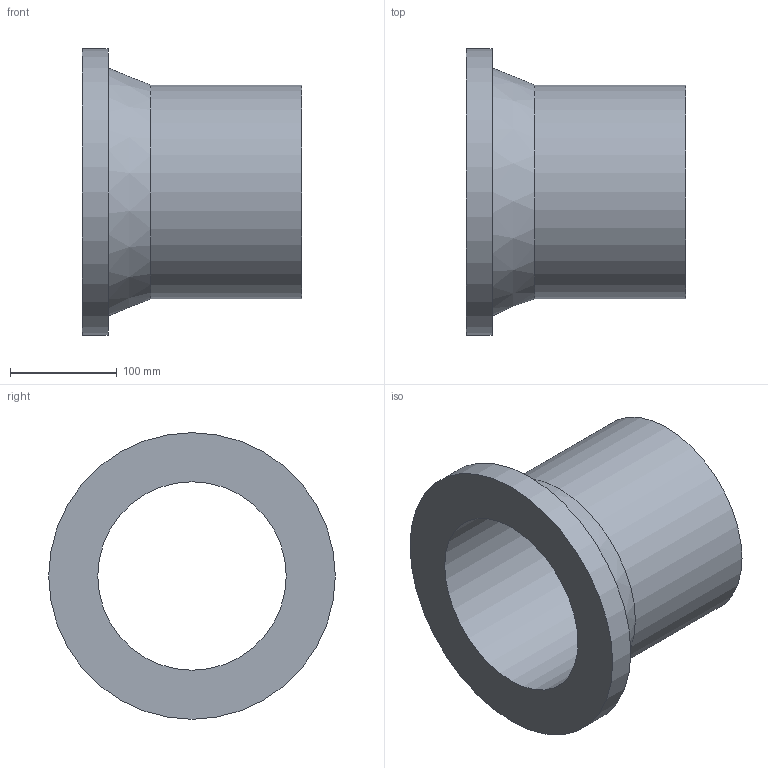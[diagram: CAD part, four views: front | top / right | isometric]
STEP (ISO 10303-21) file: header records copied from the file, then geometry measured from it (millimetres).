
FILE_DESCRIPTION(('Beschreibung'),'1');
FILE_NAME('V:/Ziel/25.80.01.063_SDR_17_PE100_200.STP', '2014-09-15T06:20:21',('Author'), ('Organization'), 'KCM Version 1.1.794.0', 'Kubotek KeyCreator', 'Authorization');
FILE_SCHEMA(('CONFIG_CONTROL_DESIGN'));
Length unit declared in the file: millimetre
Bounding box: 205 x 268 x 268 mm (x, y, z)
Volume: 2253236 mm3; surface area: 304707.3 mm2
Topology: 1 solids, 1 shells, 7 faces, 18 edges, 21 vertices
Faces by surface type: cylinder 3, plane 3, cone 1
Full cylindrical faces by diameter (mm): 176.2 x1, 200 x1, 268 x1
Entity records: 286 total; most frequent: DIRECTION 41, CARTESIAN_POINT 33, ORIENTED_EDGE 22, AXIS2_PLACEMENT_3D 15, EDGE_CURVE 11, VECTOR 11, LINE 11, EDGE_LOOP 10
